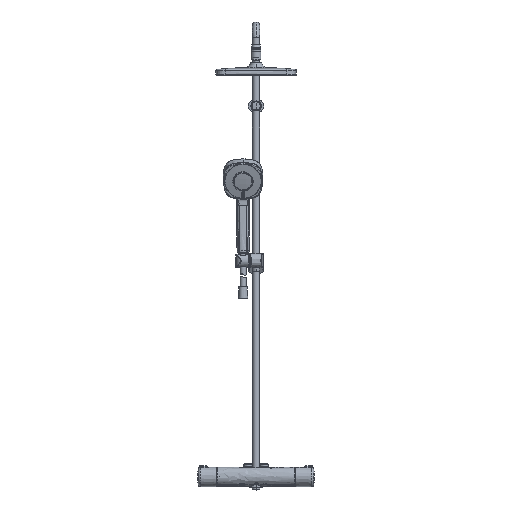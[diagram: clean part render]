
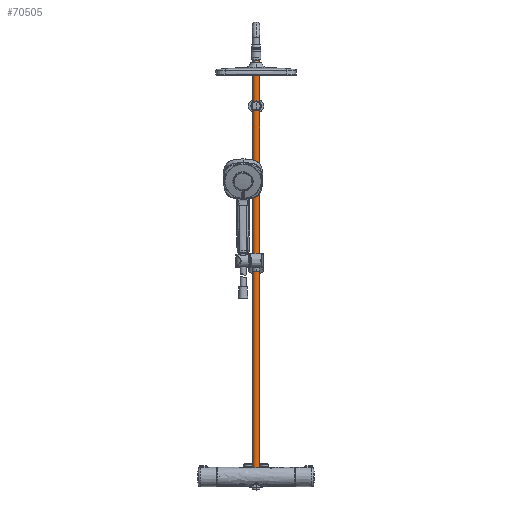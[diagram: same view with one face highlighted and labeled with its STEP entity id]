
A CAD part, top view. The second image highlights one B-rep face of the part: STEP entity #70505.
In plain terms, the highlighted cylindrical face has radius 8.9 mm (diameter 17.8 mm), a partial arc.
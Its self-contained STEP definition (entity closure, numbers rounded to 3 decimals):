
#1127 = DIRECTION ( 'NONE',  ( 0., -1., 0. ) ) ;
#1304 = VECTOR ( 'NONE', #42442, 1000. ) ;
#3543 = ORIENTED_EDGE ( 'NONE', *, *, #85031, .T. ) ;
#4090 = LINE ( 'NONE', #81573, #61044 ) ;
#6397 = DIRECTION ( 'NONE',  ( 0., -1., 0. ) ) ;
#6667 = VERTEX_POINT ( 'NONE', #11144 ) ;
#7236 = CARTESIAN_POINT ( 'NONE',  ( 0., 1091.262, 0. ) ) ;
#8969 = EDGE_CURVE ( 'NONE', #84073, #63459, #65067, .T. ) ;
#10411 = CARTESIAN_POINT ( 'NONE',  ( -8.9, 1091.262, 0. ) ) ;
#11080 = VERTEX_POINT ( 'NONE', #49712 ) ;
#11144 = CARTESIAN_POINT ( 'NONE',  ( 8.9, 1091.262, 0. ) ) ;
#11645 = CARTESIAN_POINT ( 'NONE',  ( 0., 1091.262, 0. ) ) ;
#12515 = DIRECTION ( 'NONE',  ( 0., -1., 0. ) ) ;
#12516 = VERTEX_POINT ( 'NONE', #29721 ) ;
#14485 = DIRECTION ( 'NONE',  ( -1., 0., 0. ) ) ;
#17233 = EDGE_CURVE ( 'NONE', #6667, #84073, #4090, .T. ) ;
#24325 = CARTESIAN_POINT ( 'NONE',  ( 8.9, 21.262, 0. ) ) ;
#24638 = ORIENTED_EDGE ( 'NONE', *, *, #67744, .T. ) ;
#25186 = LINE ( 'NONE', #10411, #1304 ) ;
#29140 = ORIENTED_EDGE ( 'NONE', *, *, #17233, .F. ) ;
#29721 = CARTESIAN_POINT ( 'NONE',  ( -8.9, 1091.262, 0. ) ) ;
#34485 = EDGE_CURVE ( 'NONE', #11080, #12516, #49488, .T. ) ;
#37069 = CYLINDRICAL_SURFACE ( 'NONE', #72559, 8.9 ) ;
#42087 = CARTESIAN_POINT ( 'NONE',  ( 0., 21.262, 0. ) ) ;
#42442 = DIRECTION ( 'NONE',  ( 0., -1., 0. ) ) ;
#44512 = DIRECTION ( 'NONE',  ( 1., 0., 0. ) ) ;
#45397 = FACE_OUTER_BOUND ( 'NONE', #61609, .T. ) ;
#49488 = CIRCLE ( 'NONE', #49554, 8.9 ) ;
#49554 = AXIS2_PLACEMENT_3D ( 'NONE', #79825, #6397, #79543 ) ;
#49712 = CARTESIAN_POINT ( 'NONE',  ( 0., 1091.262, 8.9 ) ) ;
#55438 = DIRECTION ( 'NONE',  ( 0., -1., 0. ) ) ;
#55979 = ORIENTED_EDGE ( 'NONE', *, *, #34485, .T. ) ;
#56653 = CARTESIAN_POINT ( 'NONE',  ( -8.9, 21.262, 0. ) ) ;
#60328 = ORIENTED_EDGE ( 'NONE', *, *, #8969, .F. ) ;
#61044 = VECTOR ( 'NONE', #82130, 1000. ) ;
#61609 = EDGE_LOOP ( 'NONE', ( #29140, #24638, #55979, #3543, #60328 ) ) ;
#63459 = VERTEX_POINT ( 'NONE', #56653 ) ;
#65067 = CIRCLE ( 'NONE', #69251, 8.9 ) ;
#65124 = AXIS2_PLACEMENT_3D ( 'NONE', #11645, #12515, #44512 ) ;
#66311 = CIRCLE ( 'NONE', #65124, 8.9 ) ;
#67744 = EDGE_CURVE ( 'NONE', #6667, #11080, #66311, .T. ) ;
#67924 = DIRECTION ( 'NONE',  ( 1., 0., 0. ) ) ;
#69251 = AXIS2_PLACEMENT_3D ( 'NONE', #42087, #55438, #67924 ) ;
#70505 = ADVANCED_FACE ( 'NONE', ( #45397 ), #37069, .T. ) ;
#72559 = AXIS2_PLACEMENT_3D ( 'NONE', #7236, #1127, #14485 ) ;
#79543 = DIRECTION ( 'NONE',  ( 1., 0., 0. ) ) ;
#79825 = CARTESIAN_POINT ( 'NONE',  ( 0., 1091.262, 0. ) ) ;
#81573 = CARTESIAN_POINT ( 'NONE',  ( 8.9, 1091.262, 0. ) ) ;
#82130 = DIRECTION ( 'NONE',  ( 0., -1., 0. ) ) ;
#84073 = VERTEX_POINT ( 'NONE', #24325 ) ;
#85031 = EDGE_CURVE ( 'NONE', #12516, #63459, #25186, .T. ) ;
